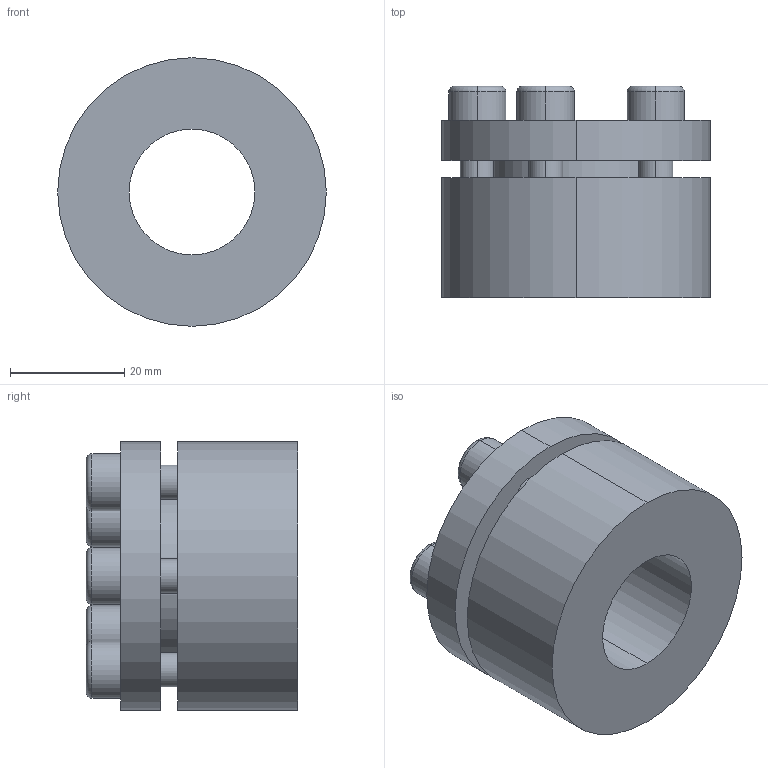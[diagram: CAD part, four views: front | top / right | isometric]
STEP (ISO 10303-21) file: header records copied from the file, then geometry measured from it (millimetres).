
FILE_DESCRIPTION (( 'STEP AP203' ), '1' );
FILE_NAME ('PL-H1 22-47.STEP', '2021-10-23T00:53:00', ( '' ), ( '' ), 'SwSTEP 2.0', 'SolidWorks 2018', '' );
FILE_SCHEMA (( 'CONFIG_CONTROL_DESIGN' ));
Length unit declared in the file: millimetre
Products named in the file (1): PL-H1 22-47
Bounding box: 47 x 37 x 47 mm (x, y, z)
Volume: 41193.7 mm3; surface area: 12478.3 mm2
Topology: 1 solids, 1 shells, 88 faces, 212 edges, 138 vertices
Faces by surface type: plane 44, cylinder 34, torus 10
Entity records: 2665 total; most frequent: DIRECTION 478, CARTESIAN_POINT 439, ORIENTED_EDGE 424, EDGE_CURVE 212, AXIS2_PLACEMENT_3D 177, VERTEX_POINT 138, LINE 124, VECTOR 124
